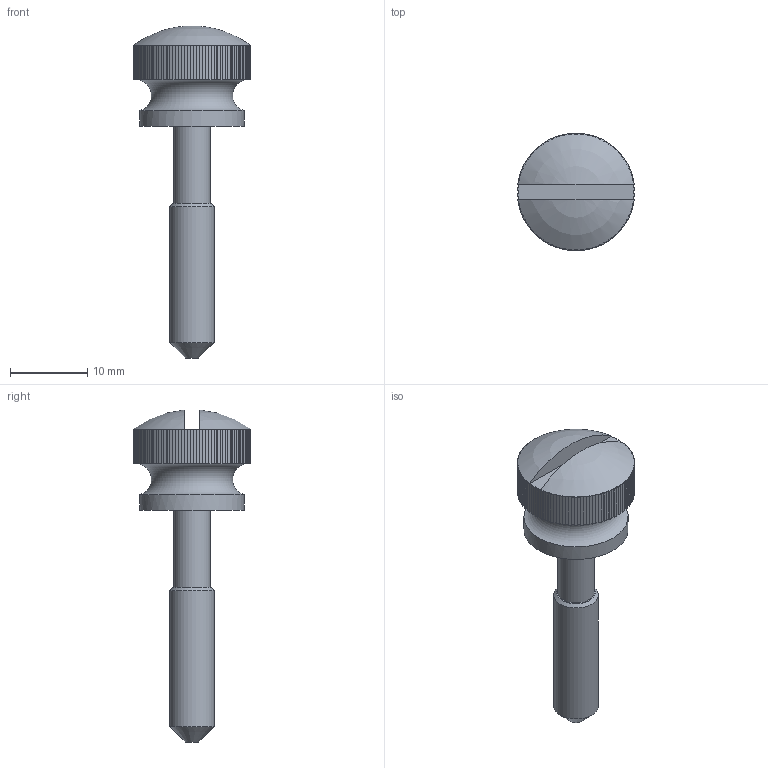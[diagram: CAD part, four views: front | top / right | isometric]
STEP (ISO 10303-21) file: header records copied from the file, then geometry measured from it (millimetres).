
FILE_DESCRIPTION(/* description */ (''),/* implementation_level */ '2;1');
FILE_NAME(/* name */ '\\SYNOLOGYNAS\web\db2\K-HSH15-M5_M\도면\M6\K-HSH15-M6-30.stp',/* time_stamp */ '2024-10-14T14:11:47+09:00',/* author */ ('user'),/* organization */ (''),/* preprocessor_version */ 'ST-DEVELOPER v15.6',/* originating_system */ 'Autodesk Inventor 2015',/* authorisation */ '');
FILE_SCHEMA (('AUTOMOTIVE_DESIGN { 1 0 10303 214 3 1 1 }'));
Length unit declared in the file: millimetre
Products named in the file (1): K-HSH15-M6-30
Bounding box: 15.19 x 15.2 x 42.96 mm (x, y, z)
Volume: 2352.4 mm3; surface area: 1475.2 mm2
Topology: 1 solids, 1 shells, 308 faces, 798 edges, 494 vertices
Faces by surface type: plane 240, cylinder 63, cone 2, sphere 2, torus 1
Full cylindrical faces by diameter (mm): 4.7 x1, 5.8 x1, 13.5 x1
Entity records: 9514 total; most frequent: CARTESIAN_POINT 2251, ORIENTED_EDGE 1580, DIRECTION 1416, EDGE_CURVE 790, AXIS2_PLACEMENT_3D 497, VERTEX_POINT 492, LINE 422, VECTOR 422
